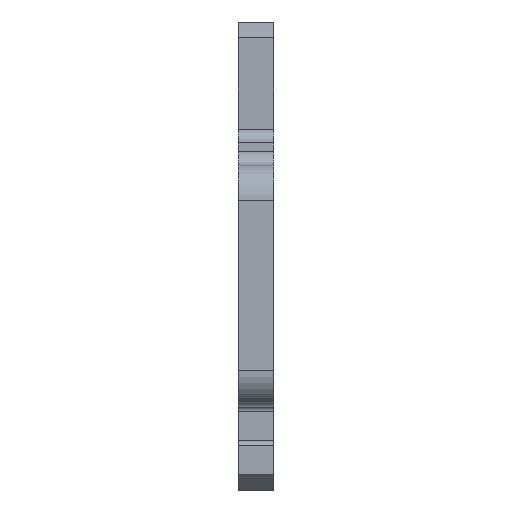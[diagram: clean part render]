
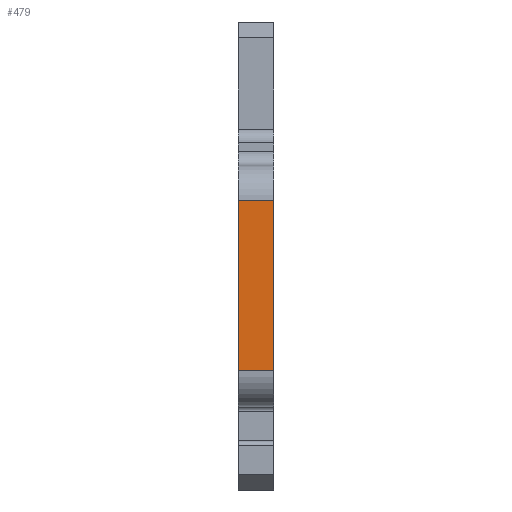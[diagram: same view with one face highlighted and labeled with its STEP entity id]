
A CAD part, left-side view. The second image highlights one B-rep face of the part: STEP entity #479.
In plain terms, the highlighted planar face has unit normal (-1, 0, 0).
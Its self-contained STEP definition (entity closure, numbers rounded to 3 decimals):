
#45 = FACE_OUTER_BOUND ( 'NONE', #1199, .T. ) ;
#79 = DIRECTION ( 'NONE',  ( 0., 0., 1. ) ) ;
#149 = CARTESIAN_POINT ( 'NONE',  ( -23.85, 40.5, 128.3 ) ) ;
#402 = ORIENTED_EDGE ( 'NONE', *, *, #967, .F. ) ;
#453 = ORIENTED_EDGE ( 'NONE', *, *, #658, .T. ) ;
#478 = AXIS2_PLACEMENT_3D ( 'NONE', #1635, #1392, #718 ) ;
#479 = ADVANCED_FACE ( 'NONE', ( #45 ), #1256, .F. ) ;
#494 = VECTOR ( 'NONE', #79, 1000. ) ;
#539 = DIRECTION ( 'NONE',  ( 0., 0., 1. ) ) ;
#543 = DIRECTION ( 'NONE',  ( 0., -1., 0. ) ) ;
#582 = VERTEX_POINT ( 'NONE', #747 ) ;
#658 = EDGE_CURVE ( 'NONE', #680, #829, #975, .T. ) ;
#677 = CARTESIAN_POINT ( 'NONE',  ( -23.85, 44.5, 128.3 ) ) ;
#680 = VERTEX_POINT ( 'NONE', #782 ) ;
#695 = EDGE_CURVE ( 'NONE', #582, #829, #1301, .T. ) ;
#718 = DIRECTION ( 'NONE',  ( 0., 0., -1. ) ) ;
#747 = CARTESIAN_POINT ( 'NONE',  ( -23.85, 44.5, 147.3 ) ) ;
#773 = VECTOR ( 'NONE', #543, 1000. ) ;
#782 = CARTESIAN_POINT ( 'NONE',  ( -23.85, 40.5, 128.3 ) ) ;
#793 = CARTESIAN_POINT ( 'NONE',  ( -23.85, 44.5, 147.3 ) ) ;
#829 = VERTEX_POINT ( 'NONE', #948 ) ;
#831 = CARTESIAN_POINT ( 'NONE',  ( -23.85, 44.5, 128.3 ) ) ;
#948 = CARTESIAN_POINT ( 'NONE',  ( -23.85, 40.5, 147.3 ) ) ;
#967 = EDGE_CURVE ( 'NONE', #1410, #582, #1277, .T. ) ;
#975 = LINE ( 'NONE', #149, #1017 ) ;
#1017 = VECTOR ( 'NONE', #539, 1000. ) ;
#1031 = ORIENTED_EDGE ( 'NONE', *, *, #695, .F. ) ;
#1075 = DIRECTION ( 'NONE',  ( 0., -1., 0. ) ) ;
#1097 = VECTOR ( 'NONE', #1075, 1000. ) ;
#1137 = LINE ( 'NONE', #677, #1097 ) ;
#1182 = CARTESIAN_POINT ( 'NONE',  ( -23.85, 44.5, 128.3 ) ) ;
#1199 = EDGE_LOOP ( 'NONE', ( #453, #1031, #402, #1207 ) ) ;
#1207 = ORIENTED_EDGE ( 'NONE', *, *, #1544, .T. ) ;
#1256 = PLANE ( 'NONE',  #478 ) ;
#1277 = LINE ( 'NONE', #831, #494 ) ;
#1301 = LINE ( 'NONE', #793, #773 ) ;
#1392 = DIRECTION ( 'NONE',  ( 1., 0., 0. ) ) ;
#1410 = VERTEX_POINT ( 'NONE', #1182 ) ;
#1544 = EDGE_CURVE ( 'NONE', #1410, #680, #1137, .T. ) ;
#1635 = CARTESIAN_POINT ( 'NONE',  ( -23.85, 44.5, 128.3 ) ) ;
